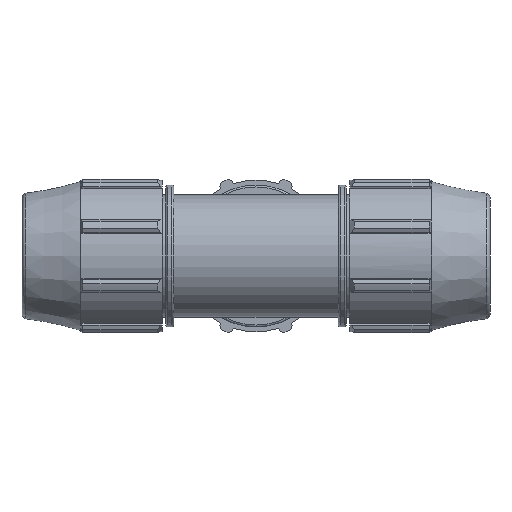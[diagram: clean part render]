
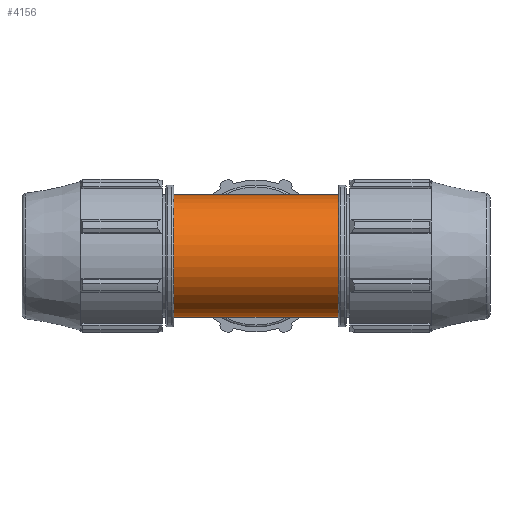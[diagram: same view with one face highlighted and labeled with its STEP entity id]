
A CAD part, front view. The second image highlights one B-rep face of the part: STEP entity #4156.
In plain terms, the highlighted cylindrical face has radius 56.959 mm (diameter 113.919 mm), a full revolution.
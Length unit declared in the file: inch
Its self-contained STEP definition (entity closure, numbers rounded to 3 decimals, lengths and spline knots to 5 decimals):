
#131=ELLIPSE('',#4401,3.17137,2.2425);
#132=ELLIPSE('',#4402,3.17137,2.2425);
#133=ELLIPSE('',#4404,3.17137,2.2425);
#134=ELLIPSE('',#4405,3.17137,2.2425);
#139=LINE('',#6065,#454);
#140=LINE('',#6071,#455);
#454=VECTOR('',#4864,2.2425);
#455=VECTOR('',#4869,2.2425);
#769=CYLINDRICAL_SURFACE('',#4398,2.2425);
#850=FACE_OUTER_BOUND('',#1064,.T.);
#1064=EDGE_LOOP('',(#2586,#2587,#2588,#2589,#2590,#2591,#2592,#2593,#2594,
#2595,#2596));
#1299=CIRCLE('',#4399,2.2425);
#1300=CIRCLE('',#4400,2.2425);
#1301=CIRCLE('',#4403,2.2425);
#1524=VERTEX_POINT('',#6060);
#1525=VERTEX_POINT('',#6061);
#1526=VERTEX_POINT('',#6064);
#1527=VERTEX_POINT('',#6066);
#1528=VERTEX_POINT('',#6068);
#1529=VERTEX_POINT('',#6070);
#1530=VERTEX_POINT('',#6073);
#1956=EDGE_CURVE('',#1524,#1525,#1299,.T.);
#1957=EDGE_CURVE('',#1525,#1524,#1300,.T.);
#1958=EDGE_CURVE('',#1525,#1526,#139,.T.);
#1959=EDGE_CURVE('',#1526,#1527,#131,.T.);
#1960=EDGE_CURVE('',#1527,#1528,#132,.T.);
#1961=EDGE_CURVE('',#1528,#1529,#140,.T.);
#1962=EDGE_CURVE('',#1529,#1529,#1301,.T.);
#1963=EDGE_CURVE('',#1528,#1530,#133,.T.);
#1964=EDGE_CURVE('',#1530,#1526,#134,.T.);
#2586=ORIENTED_EDGE('',*,*,#1956,.F.);
#2587=ORIENTED_EDGE('',*,*,#1957,.F.);
#2588=ORIENTED_EDGE('',*,*,#1958,.T.);
#2589=ORIENTED_EDGE('',*,*,#1959,.T.);
#2590=ORIENTED_EDGE('',*,*,#1960,.T.);
#2591=ORIENTED_EDGE('',*,*,#1961,.T.);
#2592=ORIENTED_EDGE('',*,*,#1962,.F.);
#2593=ORIENTED_EDGE('',*,*,#1961,.F.);
#2594=ORIENTED_EDGE('',*,*,#1963,.T.);
#2595=ORIENTED_EDGE('',*,*,#1964,.T.);
#2596=ORIENTED_EDGE('',*,*,#1958,.F.);
#4156=ADVANCED_FACE('',(#850),#769,.T.);
#4398=AXIS2_PLACEMENT_3D('',#6059,#4858,#4859);
#4399=AXIS2_PLACEMENT_3D('',#6062,#4860,#4861);
#4400=AXIS2_PLACEMENT_3D('',#6063,#4862,#4863);
#4401=AXIS2_PLACEMENT_3D('',#6067,#4865,#4866);
#4402=AXIS2_PLACEMENT_3D('',#6069,#4867,#4868);
#4403=AXIS2_PLACEMENT_3D('',#6072,#4870,#4871);
#4404=AXIS2_PLACEMENT_3D('',#6074,#4872,#4873);
#4405=AXIS2_PLACEMENT_3D('',#6075,#4874,#4875);
#4858=DIRECTION('center_axis',(-1.,0.,0.));
#4859=DIRECTION('ref_axis',(0.,-1.,0.));
#4860=DIRECTION('center_axis',(-1.,0.,0.));
#4861=DIRECTION('ref_axis',(0.,0.,-1.));
#4862=DIRECTION('center_axis',(-1.,0.,0.));
#4863=DIRECTION('ref_axis',(0.,0.,-1.));
#4864=DIRECTION('',(1.,0.,0.));
#4865=DIRECTION('center_axis',(-0.707,-0.707,0.));
#4866=DIRECTION('ref_axis',(-0.707,0.707,0.));
#4867=DIRECTION('center_axis',(0.707,-0.707,0.));
#4868=DIRECTION('ref_axis',(-0.707,-0.707,0.));
#4869=DIRECTION('',(1.,0.,0.));
#4870=DIRECTION('center_axis',(1.,0.,0.));
#4871=DIRECTION('ref_axis',(0.,0.,-1.));
#4872=DIRECTION('center_axis',(0.707,-0.707,0.));
#4873=DIRECTION('ref_axis',(-0.707,-0.707,0.));
#4874=DIRECTION('center_axis',(-0.707,-0.707,0.));
#4875=DIRECTION('ref_axis',(-0.707,0.707,0.));
#6059=CARTESIAN_POINT('Origin',(-2.589,0.,0.));
#6060=CARTESIAN_POINT('',(-3.018,-2.2425,0.));
#6061=CARTESIAN_POINT('',(-3.018,2.2425,0.));
#6062=CARTESIAN_POINT('Origin',(-3.018,0.,0.));
#6063=CARTESIAN_POINT('Origin',(-3.018,0.,0.));
#6064=CARTESIAN_POINT('',(-2.2425,2.2425,0.));
#6065=CARTESIAN_POINT('',(-2.589,2.2425,0.));
#6066=CARTESIAN_POINT('',(0.,0.,-2.2425));
#6067=CARTESIAN_POINT('Origin',(0.,0.,0.));
#6068=CARTESIAN_POINT('',(2.2425,2.2425,0.));
#6069=CARTESIAN_POINT('Origin',(0.,0.,0.));
#6070=CARTESIAN_POINT('',(3.018,2.2425,0.));
#6071=CARTESIAN_POINT('',(-2.589,2.2425,0.));
#6072=CARTESIAN_POINT('Origin',(3.018,0.,0.));
#6073=CARTESIAN_POINT('',(0.,0.,2.2425));
#6074=CARTESIAN_POINT('Origin',(0.,0.,0.));
#6075=CARTESIAN_POINT('Origin',(0.,0.,0.));
